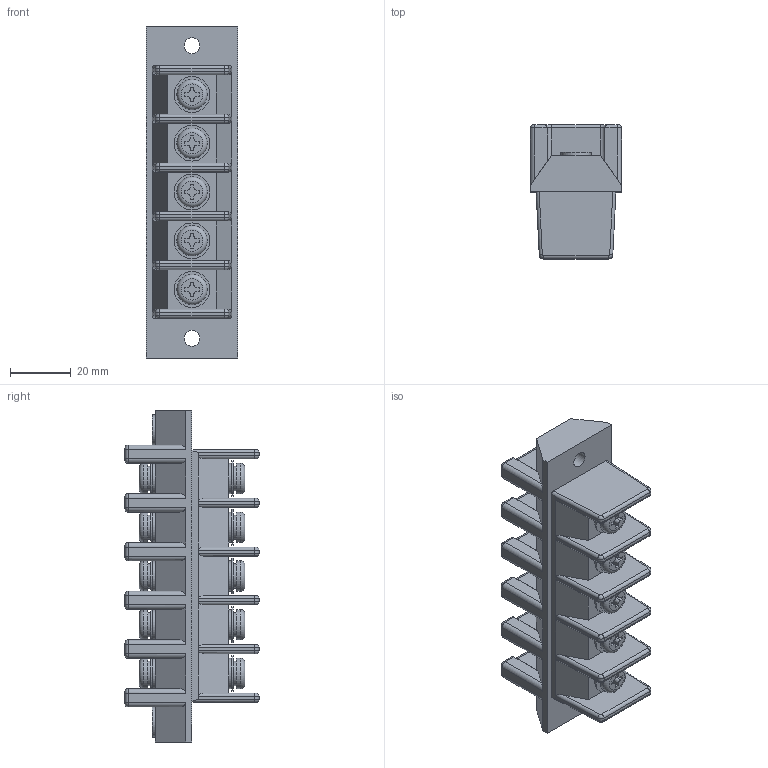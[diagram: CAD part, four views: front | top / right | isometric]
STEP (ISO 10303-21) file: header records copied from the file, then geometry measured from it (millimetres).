
FILE_DESCRIPTION(/* description */ ('Alibre Inc.'),/* implementation_level */ '2;1');
FILE_NAME(/* name */ 'export-F9FC06CA-A3BB-4E24-BBC3-B223C8D42698',/* time_stamp */ '2025-02-21T11:56:41+09:00',/* author */ (''),/* organization */ (''),/* preprocessor_version */ 'ST-DEVELOPER v17',/* originating_system */ 'Alibre',/* authorisation */ '');
FILE_SCHEMA (('CONFIG_CONTROL_DESIGN'));
Length unit declared in the file: millimetre
Bounding box: 30 x 44 x 109 mm (x, y, z)
Volume: 70805.2 mm3; surface area: 24523.1 mm2
Topology: 1 solids, 16 shells, 682 faces, 1575 edges, 978 vertices
Faces by surface type: plane 317, cylinder 263, torus 82, cone 20
Full cylindrical faces by diameter (mm): 4.4 x10, 4.6 x10, 5 x15, 5.2 x2, 8 x10, 9.9 x12, 10 x10, 11.7 x10
Entity records: 18090 total; most frequent: CARTESIAN_POINT 3308, ORIENTED_EDGE 2908, DIRECTION 2877, EDGE_CURVE 1454, AXIS2_PLACEMENT_3D 1222, VERTEX_POINT 966, EDGE_LOOP 868, FACE_BOUND 868
